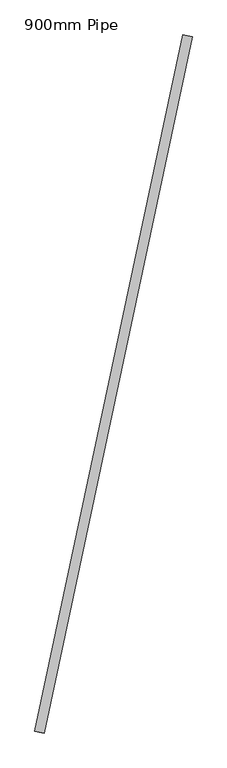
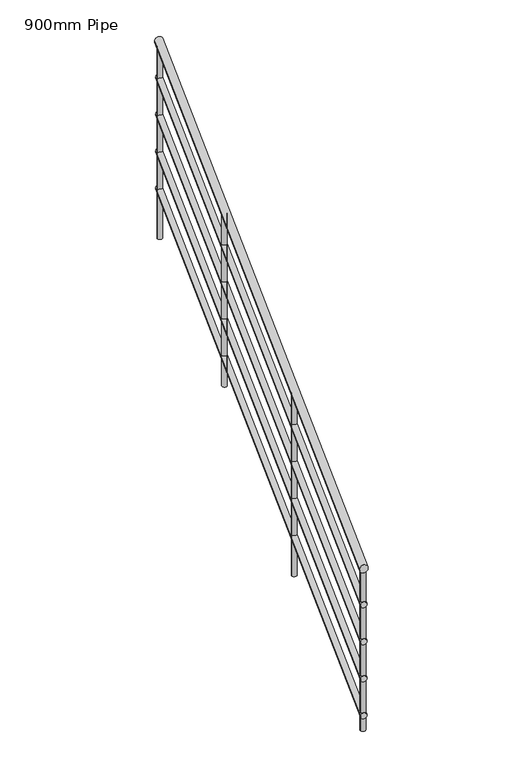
"""IFC4 building model written with IfcOpenShell, lengths in millimetres: railing geometry, 900mm Pipe."""

from ifc_helpers import new_model, si_unit, frame, origin, place, context, project, spatial, circle_curve, ellipse_curve, source, transform, mapped, element, save
from ifc_brep_helpers import plane_surface, cylinder_surface, advanced_brep


def railing_900mm_pipe_108c50bf(model_context):
    return source(origin(), model_context, "Body", "AdvancedBrep", [
        advanced_brep(
        [(889500.576221, 38176.7698857, 6058.386247), (889461.4527311, 38185.0977027, 6058.386247), (890113.0983758, 41054.3552493, 6954.8568352), (890073.9748858, 41062.6830663, 6954.8568352)],
        [
            (0, 1, ellipse_curve(frame((889481.014476, 38180.9337942, 6058.386247), z_axis=(-0.2081954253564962, -0.978087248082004, 0.0), x_axis=(0.0, 0.0, -1.0)), 20.9078706, 20.0)),
            (1, 0, ellipse_curve(frame((889481.014476, 38180.9337942, 6058.386247), z_axis=(-0.2081954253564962, -0.978087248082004, 0.0), x_axis=(0.0, 0.0, -1.0)), 20.9078706, 20.0)),
            (2, 3, ellipse_curve(frame((890093.5366308, 41058.5191578, 6954.8568352), z_axis=(0.2081954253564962, 0.978087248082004, 0.0), x_axis=(0.0, 0.0, -1.0)), 20.9078706, 20.0)),
            (3, 2, ellipse_curve(frame((890093.5366308, 41058.5191578, 6954.8568352), z_axis=(0.2081954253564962, 0.978087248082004, 0.0), x_axis=(0.0, 0.0, -1.0)), 20.9078706, 20.0)),
            (1, 3),
            (2, 0),
        ],
        [
            plane_surface(frame((889481.014476, 38180.9337942, 6079.2941176), z_axis=(-0.2081954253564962, -0.978087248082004, 0.0), x_axis=(0.978087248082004, -0.2081954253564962, 0.0))),
            plane_surface(frame((890093.5366308, 41058.5191578, 6975.7647059), z_axis=(0.2081954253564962, 0.978087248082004, 0.0), x_axis=(0.978087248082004, -0.2081954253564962, 0.0))),
            cylinder_surface(frame((889482.2281633, 38186.6356103, 6060.1625663), z_axis=(-0.19915507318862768, -0.9356163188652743, -0.2914778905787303), x_axis=(-0.9780872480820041, 0.2081954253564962, 0.0)), 20.0),
        ],
        [
            (0, [[1, 2]]),
            (1, [[3, 4]]),
            (2, [[-2, 5, -3, 6]]),
            (2, [[-1, -6, -4, -5]]),
        ],
    ),
        advanced_brep(
        [(889495.6857847, 38177.8108628, 5863.6132147), (889466.3431673, 38184.0567256, 5863.6132147), (890108.2079395, 41055.3962264, 6760.0838029), (890078.8653221, 41061.6420891, 6760.0838029)],
        [
            (0, 1, ellipse_curve(frame((889481.014476, 38180.9337942, 5863.6132147), z_axis=(-0.2081954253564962, -0.978087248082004, 0.0), x_axis=(0.0, 0.0, -1.0)), 15.680903, 15.0)),
            (1, 0, ellipse_curve(frame((889481.014476, 38180.9337942, 5863.6132147), z_axis=(-0.2081954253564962, -0.978087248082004, 0.0), x_axis=(0.0, 0.0, -1.0)), 15.680903, 15.0)),
            (2, 3, ellipse_curve(frame((890093.5366308, 41058.5191578, 6760.0838029), z_axis=(0.2081954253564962, 0.978087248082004, 0.0), x_axis=(0.0, 0.0, -1.0)), 15.680903, 15.0)),
            (3, 2, ellipse_curve(frame((890093.5366308, 41058.5191578, 6760.0838029), z_axis=(0.2081954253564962, 0.978087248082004, 0.0), x_axis=(0.0, 0.0, -1.0)), 15.680903, 15.0)),
            (0, 2),
            (3, 1),
        ],
        [
            plane_surface(frame((889481.014476, 38180.9337942, 5879.2941176), z_axis=(-0.2081954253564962, -0.978087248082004, 0.0), x_axis=(0.978087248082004, -0.2081954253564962, 0.0))),
            plane_surface(frame((890093.5366308, 41058.5191578, 6775.7647059), z_axis=(0.2081954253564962, 0.978087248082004, 0.0), x_axis=(0.978087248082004, -0.2081954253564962, 0.0))),
            cylinder_surface(frame((889481.9247415, 38185.2101563, 5864.9454542), z_axis=(-0.19915507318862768, -0.9356163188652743, -0.2914778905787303), x_axis=(-0.9780872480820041, 0.2081954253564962, 0.0)), 15.0),
        ],
        [
            (0, [[1, 2]]),
            (1, [[3, 4]]),
            (2, [[-1, 5, -4, 6]]),
            (2, [[-2, -6, -3, -5]]),
        ],
    ),
        advanced_brep(
        [(889495.6857847, 38177.8108628, 5663.6132147), (889466.3431673, 38184.0567256, 5663.6132147), (890108.2079395, 41055.3962264, 6560.0838029), (890078.8653221, 41061.6420891, 6560.0838029)],
        [
            (0, 1, ellipse_curve(frame((889481.014476, 38180.9337942, 5663.6132147), z_axis=(-0.2081954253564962, -0.978087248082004, 0.0), x_axis=(0.0, 0.0, -1.0)), 15.680903, 15.0)),
            (1, 0, ellipse_curve(frame((889481.014476, 38180.9337942, 5663.6132147), z_axis=(-0.2081954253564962, -0.978087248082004, 0.0), x_axis=(0.0, 0.0, -1.0)), 15.680903, 15.0)),
            (2, 3, ellipse_curve(frame((890093.5366308, 41058.5191578, 6560.0838029), z_axis=(0.2081954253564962, 0.978087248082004, 0.0), x_axis=(0.0, 0.0, -1.0)), 15.680903, 15.0)),
            (3, 2, ellipse_curve(frame((890093.5366308, 41058.5191578, 6560.0838029), z_axis=(0.2081954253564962, 0.978087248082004, 0.0), x_axis=(0.0, 0.0, -1.0)), 15.680903, 15.0)),
            (0, 2),
            (3, 1),
        ],
        [
            plane_surface(frame((889481.014476, 38180.9337942, 5679.2941176), z_axis=(-0.2081954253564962, -0.978087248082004, 0.0), x_axis=(0.978087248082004, -0.2081954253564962, 0.0))),
            plane_surface(frame((890093.5366308, 41058.5191578, 6575.7647059), z_axis=(0.2081954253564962, 0.978087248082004, 0.0), x_axis=(0.978087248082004, -0.2081954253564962, 0.0))),
            cylinder_surface(frame((889481.9247415, 38185.2101563, 5664.9454542), z_axis=(-0.19915507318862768, -0.9356163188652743, -0.2914778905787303), x_axis=(-0.9780872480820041, 0.2081954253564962, 0.0)), 15.0),
        ],
        [
            (0, [[1, 2]]),
            (1, [[3, 4]]),
            (2, [[-1, 5, -4, 6]]),
            (2, [[-2, -6, -3, -5]]),
        ],
    ),
        advanced_brep(
        [(889495.6857847, 38177.8108628, 5463.6132147), (889466.3431673, 38184.0567256, 5463.6132147), (890108.2079395, 41055.3962264, 6360.0838029), (890078.8653221, 41061.6420891, 6360.0838029)],
        [
            (0, 1, ellipse_curve(frame((889481.014476, 38180.9337942, 5463.6132147), z_axis=(-0.2081954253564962, -0.978087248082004, 0.0), x_axis=(0.0, 0.0, -1.0)), 15.680903, 15.0)),
            (1, 0, ellipse_curve(frame((889481.014476, 38180.9337942, 5463.6132147), z_axis=(-0.2081954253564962, -0.978087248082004, 0.0), x_axis=(0.0, 0.0, -1.0)), 15.680903, 15.0)),
            (2, 3, ellipse_curve(frame((890093.5366308, 41058.5191578, 6360.0838029), z_axis=(0.2081954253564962, 0.978087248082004, 0.0), x_axis=(0.0, 0.0, -1.0)), 15.680903, 15.0)),
            (3, 2, ellipse_curve(frame((890093.5366308, 41058.5191578, 6360.0838029), z_axis=(0.2081954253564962, 0.978087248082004, 0.0), x_axis=(0.0, 0.0, -1.0)), 15.680903, 15.0)),
            (0, 2),
            (3, 1),
        ],
        [
            plane_surface(frame((889481.014476, 38180.9337942, 5479.2941176), z_axis=(-0.2081954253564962, -0.978087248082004, 0.0), x_axis=(0.978087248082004, -0.2081954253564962, 0.0))),
            plane_surface(frame((890093.5366308, 41058.5191578, 6375.7647059), z_axis=(0.2081954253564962, 0.978087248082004, 0.0), x_axis=(0.978087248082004, -0.2081954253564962, 0.0))),
            cylinder_surface(frame((889481.9247415, 38185.2101563, 5464.9454542), z_axis=(-0.19915507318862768, -0.9356163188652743, -0.2914778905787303), x_axis=(-0.9780872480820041, 0.2081954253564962, 0.0)), 15.0),
        ],
        [
            (0, [[1, 2]]),
            (1, [[3, 4]]),
            (2, [[-1, 5, -4, 6]]),
            (2, [[-2, -6, -3, -5]]),
        ],
    ),
        advanced_brep(
        [(889495.6857847, 38177.8108628, 5263.6132147), (889466.3431673, 38184.0567256, 5263.6132147), (890108.2079395, 41055.3962264, 6160.0838029), (890078.8653221, 41061.6420891, 6160.0838029)],
        [
            (0, 1, ellipse_curve(frame((889481.014476, 38180.9337942, 5263.6132147), z_axis=(-0.2081954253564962, -0.978087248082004, 0.0), x_axis=(0.0, 0.0, -1.0)), 15.680903, 15.0)),
            (1, 0, ellipse_curve(frame((889481.014476, 38180.9337942, 5263.6132147), z_axis=(-0.2081954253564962, -0.978087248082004, 0.0), x_axis=(0.0, 0.0, -1.0)), 15.680903, 15.0)),
            (2, 3, ellipse_curve(frame((890093.5366308, 41058.5191578, 6160.0838029), z_axis=(0.2081954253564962, 0.978087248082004, 0.0), x_axis=(0.0, 0.0, -1.0)), 15.680903, 15.0)),
            (3, 2, ellipse_curve(frame((890093.5366308, 41058.5191578, 6160.0838029), z_axis=(0.2081954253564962, 0.978087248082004, 0.0), x_axis=(0.0, 0.0, -1.0)), 15.680903, 15.0)),
            (0, 2),
            (3, 1),
        ],
        [
            plane_surface(frame((889481.014476, 38180.9337942, 5279.2941176), z_axis=(-0.2081954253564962, -0.978087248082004, 0.0), x_axis=(0.978087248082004, -0.2081954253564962, 0.0))),
            plane_surface(frame((890093.5366308, 41058.5191578, 6175.7647059), z_axis=(0.2081954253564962, 0.978087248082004, 0.0), x_axis=(0.978087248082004, -0.2081954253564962, 0.0))),
            cylinder_surface(frame((889481.9247415, 38185.2101563, 5264.9454542), z_axis=(-0.19915507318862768, -0.9356163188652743, -0.2914778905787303), x_axis=(-0.9780872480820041, 0.2081954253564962, 0.0)), 15.0),
        ],
        [
            (0, [[1, 2]]),
            (1, [[3, 4]]),
            (2, [[-1, 5, -4, 6]]),
            (2, [[-2, -6, -3, -5]]),
        ],
    ),
        advanced_brep(
        [(889885.1792361, 40139.7107332, 6646.8965794), (889909.6314173, 40134.5058475, 6646.8965794), (889909.6314173, 40134.5058475, 5717.1764706), (889885.1792361, 40139.7107332, 5717.1764706)],
        [
            (0, 1, ellipse_curve(frame((889897.4053267, 40137.1082904, 6646.8965794), z_axis=(0.06068436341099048, 0.28509080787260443, -0.9565775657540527), x_axis=(0.19915507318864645, 0.9356163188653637, 0.29147789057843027)), 13.0674191, 12.5)),
            (1, 2),
            (2, 3, circle_curve(frame((889897.4053267, 40137.1082904, 5717.1764706), z_axis=(0.0, 0.0, 1.0000000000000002), x_axis=(0.9780872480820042, -0.20819542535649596, 0.0)), 12.5)),
            (3, 0),
            (3, 2, circle_curve(frame((889897.4053267, 40137.1082904, 5717.1764706), z_axis=(0.0, 0.0, 1.0000000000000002), x_axis=(0.9780872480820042, -0.20819542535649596, 0.0)), 12.5)),
            (1, 0, ellipse_curve(frame((889897.4053267, 40137.1082904, 6646.8965794), z_axis=(0.06068436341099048, 0.28509080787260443, -0.9565775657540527), x_axis=(0.19915507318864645, 0.9356163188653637, 0.29147789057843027)), 13.0674191, 12.5)),
        ],
        [
            cylinder_surface(frame((889897.4053267, 40137.1082904, 5617.1764706), z_axis=(0.0, 0.0, 1.0000000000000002), x_axis=(0.9780872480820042, -0.20819542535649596, 0.0)), 12.5),
            plane_surface(frame((889927.0623936, 40156.3555859, 6654.5143069), z_axis=(-0.06068436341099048, -0.28509080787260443, 0.9565775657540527), x_axis=(-0.9780872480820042, 0.20819542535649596, 0.0))),
            plane_surface(frame((889916.6526223, 40107.4512235, 5717.1764706), z_axis=(0.0, 0.0, -1.0000000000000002), x_axis=(-0.9780872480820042, 0.20819542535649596, 0.0))),
        ],
        [
            (0, [[1, 2, 3, 4]]),
            (0, [[5, -2, 6, -4]]),
            (1, [[-6, -1]]),
            (2, [[-5, -3]]),
        ],
    ),
        advanced_brep(
        [(889676.9838108, 39161.6234851, 6342.1874779), (889701.435992, 39156.4185995, 6342.1874779), (889701.435992, 39156.4185995, 5358.5882353), (889676.9838108, 39161.6234851, 5358.5882353)],
        [
            (0, 1, ellipse_curve(frame((889689.2099014, 39159.0210423, 6342.1874779), z_axis=(0.06068436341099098, 0.28509080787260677, -0.956577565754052), x_axis=(0.19915507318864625, 0.9356163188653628, 0.2914778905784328)), 13.0674191, 12.5)),
            (1, 2),
            (2, 3, circle_curve(frame((889689.2099014, 39159.0210423, 5358.5882353), z_axis=(0.0, 0.0, 1.0000000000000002), x_axis=(0.9780872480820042, -0.20819542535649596, 0.0)), 12.5)),
            (3, 0),
            (3, 2, circle_curve(frame((889689.2099014, 39159.0210423, 5358.5882353), z_axis=(0.0, 0.0, 1.0000000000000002), x_axis=(0.9780872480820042, -0.20819542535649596, 0.0)), 12.5)),
            (1, 0, ellipse_curve(frame((889689.2099014, 39159.0210423, 6342.1874779), z_axis=(0.06068436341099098, 0.28509080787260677, -0.956577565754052), x_axis=(0.19915507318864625, 0.9356163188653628, 0.2914778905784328)), 13.0674191, 12.5)),
        ],
        [
            cylinder_surface(frame((889689.2099014, 39159.0210423, 5258.5882353), z_axis=(0.0, 0.0, 1.0000000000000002), x_axis=(0.9780872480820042, -0.20819542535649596, 0.0)), 12.5),
            plane_surface(frame((889718.8669682, 39178.2683378, 6349.8052054), z_axis=(-0.06068436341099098, -0.28509080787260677, 0.956577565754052), x_axis=(-0.9780872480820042, 0.20819542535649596, 0.0))),
            plane_surface(frame((889708.4571969, 39129.3639754, 5358.5882353), z_axis=(0.0, 0.0, -1.0000000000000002), x_axis=(-0.9780872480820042, 0.20819542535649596, 0.0))),
        ],
        [
            (0, [[1, 2, 3, 4]]),
            (0, [[5, -2, 6, -4]]),
            (1, [[-6, -1]]),
            (2, [[-5, -3]]),
        ],
    ),
        advanced_brep(
        [(890078.7080974, 41048.89551, 6930.1401008), (890103.1602786, 41043.6906243, 6930.1401008), (890103.1602786, 41043.6906243, 5896.4705882), (890078.7080974, 41048.89551, 5896.4705882)],
        [
            (0, 1, ellipse_curve(frame((890090.934188, 41046.2930672, 6930.1401008), z_axis=(0.06068436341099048, 0.28509080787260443, -0.9565775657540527), x_axis=(0.19915507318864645, 0.9356163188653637, 0.29147789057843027)), 13.0674191, 12.5)),
            (1, 2),
            (2, 3, circle_curve(frame((890090.934188, 41046.2930672, 5896.4705882), z_axis=(0.0, 0.0, 1.0000000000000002), x_axis=(0.9780872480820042, -0.20819542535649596, 0.0)), 12.5)),
            (3, 0),
            (3, 2, circle_curve(frame((890090.934188, 41046.2930672, 5896.4705882), z_axis=(0.0, 0.0, 1.0000000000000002), x_axis=(0.9780872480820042, -0.20819542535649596, 0.0)), 12.5)),
            (1, 0, ellipse_curve(frame((890090.934188, 41046.2930672, 6930.1401008), z_axis=(0.06068436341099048, 0.28509080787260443, -0.9565775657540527), x_axis=(0.19915507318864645, 0.9356163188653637, 0.29147789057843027)), 13.0674191, 12.5)),
        ],
        [
            cylinder_surface(frame((890090.934188, 41046.2930672, 5796.4705882), z_axis=(0.0, 0.0, 1.0000000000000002), x_axis=(0.9780872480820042, -0.20819542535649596, 0.0)), 12.5),
            plane_surface(frame((890120.5912548, 41065.5403627, 6937.7578284), z_axis=(-0.06068436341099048, -0.28509080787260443, 0.9565775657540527), x_axis=(-0.9780872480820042, 0.20819542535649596, 0.0))),
            plane_surface(frame((890110.1814836, 41016.6360003, 5896.4705882), z_axis=(0.0, 0.0, -1.0000000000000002), x_axis=(-0.9780872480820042, 0.20819542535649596, 0.0))),
        ],
        [
            (0, [[1, 2, 3, 4]]),
            (0, [[5, -2, 6, -4]]),
            (1, [[-6, -1]]),
            (2, [[-5, -3]]),
        ],
    ),
        advanced_brep(
        [(889471.3908282, 38195.7623276, 6041.2872401), (889495.8430094, 38190.557442, 6041.2872401), (889495.8430094, 38190.557442, 5179.2941176), (889471.3908282, 38195.7623276, 5179.2941176)],
        [
            (0, 1, ellipse_curve(frame((889483.6169188, 38193.1598848, 6041.2872401), z_axis=(0.06068436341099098, 0.28509080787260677, -0.956577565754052), x_axis=(0.19915507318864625, 0.9356163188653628, 0.2914778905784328)), 13.0674191, 12.5)),
            (1, 2),
            (2, 3, circle_curve(frame((889483.6169188, 38193.1598848, 5179.2941176), z_axis=(0.0, 0.0, 1.0000000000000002), x_axis=(0.9780872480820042, -0.20819542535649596, 0.0)), 12.5)),
            (3, 0),
            (3, 2, circle_curve(frame((889483.6169188, 38193.1598848, 5179.2941176), z_axis=(0.0, 0.0, 1.0000000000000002), x_axis=(0.9780872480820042, -0.20819542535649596, 0.0)), 12.5)),
            (1, 0, ellipse_curve(frame((889483.6169188, 38193.1598848, 6041.2872401), z_axis=(0.06068436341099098, 0.28509080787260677, -0.956577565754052), x_axis=(0.19915507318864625, 0.9356163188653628, 0.2914778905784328)), 13.0674191, 12.5)),
        ],
        [
            cylinder_surface(frame((889483.6169188, 38193.1598848, 5079.2941176), z_axis=(0.0, 0.0, 1.0000000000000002), x_axis=(0.9780872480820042, -0.20819542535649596, 0.0)), 12.5),
            plane_surface(frame((889513.2739857, 38212.4071804, 6048.9049677), z_axis=(-0.06068436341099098, -0.28509080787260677, 0.956577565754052), x_axis=(-0.9780872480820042, 0.20819542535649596, 0.0))),
            plane_surface(frame((889502.8642144, 38163.502818, 5179.2941176), z_axis=(0.0, 0.0, -1.0000000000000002), x_axis=(-0.9780872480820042, 0.20819542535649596, 0.0))),
        ],
        [
            (0, [[1, 2, 3, 4]]),
            (0, [[5, -2, 6, -4]]),
            (1, [[-6, -1]]),
            (2, [[-5, -3]]),
        ],
    ),
    ])


if __name__ == "__main__":
    model = new_model("IFC4")
    model_context = context("Model", 3, world=origin())
    ifc_project = project(units=[si_unit("LENGTHUNIT", "METRE", prefix="MILLI")], contexts=[model_context])
    site = spatial("IfcSite", under=ifc_project)
    building = spatial("IfcBuilding", under=site)
    placement = place(None, origin())
    railing_900mm_pipe_shape = railing_900mm_pipe_108c50bf(model_context)
    element("IfcRailing", 1, ObjectType="900mm Pipe", at=placement, inside=building, context=model_context, shape_type="MappedRepresentation", body=[
        mapped(railing_900mm_pipe_shape, transform((0.0, 0.0, 0.0), x_axis=(1.0, 0.0, 0.0), y_axis=(0.0, 1.0, 0.0), z_axis=(0.0, 0.0, 1.0))),
    ])
    save(model, "model.ifc")
